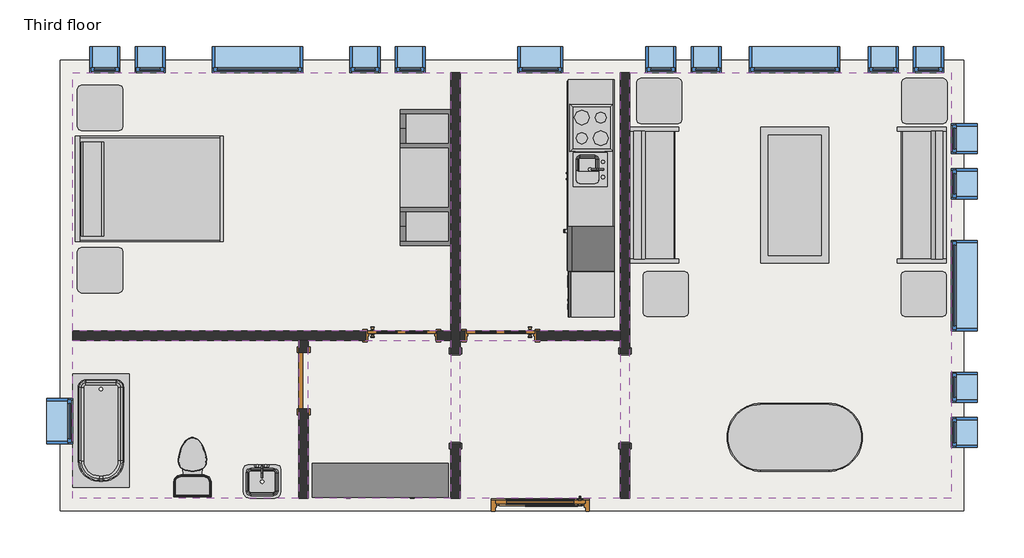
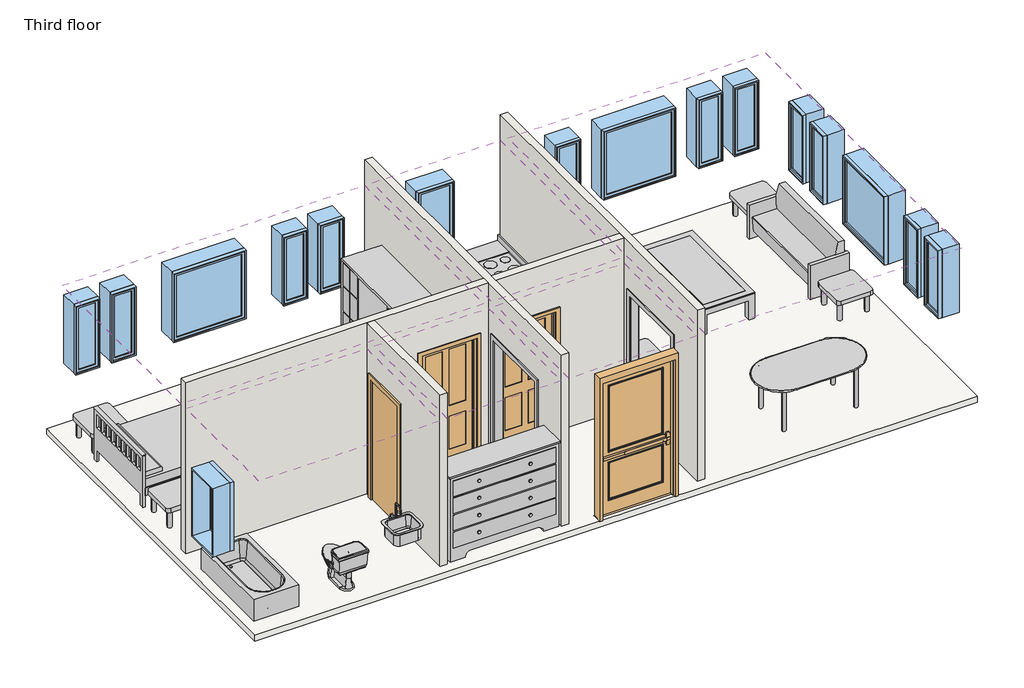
# One storey, incomplete: 17 windows, 14 furniture elements, 6 coverings, 6 proxies, 4 doors, 4 flow terminals, 4 walls, 1 slab.
"""IFC4 building model written with IfcOpenShell, lengths in millimetres."""

from ifc_helpers import new_model, si_unit, frame, origin, place, context, project, spatial, polyline, outline, extrude, faceted_brep, transform, mapped, element, save
from components import proxy_a6faaae8, proxy_45b28599, proxy_2d72b8be, proxy_f44482cc, proxy_d58c73d0, proxy_c523a7b7, door_734823c0, door_3a280f7b, door_48307b55, door_4d6c7550, flow_terminal_871c2e40, flow_terminal_62a433f7, toilet_domestic_3d_toilet_domestic_3d_f7549cf7, toilet_domestic_3d_toilet_domestic_3d_183bbd19, tub_rectangular_3d_tub_rectangular_3d_c56944d8, furniture_096e7f55, furniture_b11095bc, furniture_7c473f12, furniture_cf0b6580, furniture_a4ffab56, furniture_4aa42607, furniture_cd93a443, furniture_2c34a4f9, furniture_3a588284, furniture_1befe2a2, window_da97879f, window_d61ef850, window_60baf983, window_6eb97611

model = new_model("IFC4")

# Units and contexts
model_context = context("Model", 3, world=origin())
ifc_project = project(units=[si_unit("LENGTHUNIT", "METRE", prefix="MILLI")], contexts=[model_context])

# Site, building, storey
site = spatial("IfcSite", under=ifc_project)
building = spatial("IfcBuilding", under=site)
storey = spatial("IfcBuildingStorey", under=building, Name="Third floor", Elevation=6096.0)

# Proxies
placement = place(None, origin())
proxy_shape = proxy_a6faaae8(model_context)
element("IfcBuildingElementProxy", 1, Name="Cook Top-4 Unit2 : 22\" x 20\"", ObjectType="Cook Top-4 Unit2 : 22\" x 20\"", at=placement, inside=storey, context=model_context, shape_type="MappedRepresentation", body=[
    mapped(proxy_shape, transform((-9031.7273953, 6866.0370415, 6097.7), x_axis=(0.0, 1.0, 0.0), y_axis=(-1.0, 0.0, 0.0), z_axis=(0.0, 0.0, 1.0))),
])
proxy_2_shape = proxy_45b28599(model_context)
element("IfcBuildingElementProxy", 2, Name="Dishwasher : 24\" x 24\" x 34\"", ObjectType="Dishwasher : 24\" x 24\" x 34\"", at=placement, inside=storey, context=model_context, shape_type="MappedRepresentation", body=[
    mapped(proxy_2_shape, transform((-9291.8269601, 5000.45451, 6096.0), x_axis=(0.0, -1.0, 0.0), y_axis=(1.0, 0.0, 0.0), z_axis=(0.0, 0.0, 1.0))),
])
proxy_3_shape = proxy_2d72b8be(model_context)
element("IfcBuildingElementProxy", 3, Name="Kitchenette - Medium : 8'6\"", ObjectType="Kitchenette - Medium : 8'6\"", at=placement, inside=storey, context=model_context, shape_type="MappedRepresentation", body=[
    mapped(proxy_3_shape, transform((-8720.5773953, 6237.0747464, 6096.0), x_axis=(0.0, -1.0, 0.0), y_axis=(1.0, 0.0, 0.0), z_axis=(0.0, 0.0, 1.0))),
])
proxy_4_shape = proxy_f44482cc(model_context)
element("IfcBuildingElementProxy", 4, Name="Passage Opening-Cased : 48\" x 84\"", ObjectType="Passage Opening-Cased : 48\" x 84\"", at=placement, inside=storey, context=model_context, shape_type="MappedRepresentation", body=[
    mapped(proxy_4_shape, transform((-8577.1844712, 3224.0452741, 6096.0), x_axis=(0.0, 1.0, 0.0), y_axis=(-1.0, 0.0, 0.0), z_axis=(0.0, 0.0, 1.0))),
])
proxy_5_shape = proxy_d58c73d0(model_context)
element("IfcBuildingElementProxy", 5, Name="Passage Opening-Cased : 48\" x 84\"", ObjectType="Passage Opening-Cased : 48\" x 84\"", at=placement, inside=storey, context=model_context, shape_type="MappedRepresentation", body=[
    mapped(proxy_5_shape, transform((-10863.1844712, 3224.0452741, 6096.0), x_axis=(0.0, 1.0, 0.0), y_axis=(-1.0, 0.0, 0.0), z_axis=(0.0, 0.0, 1.0))),
])
proxy_6_shape = proxy_c523a7b7(model_context)
element("IfcBuildingElementProxy", 6, Name="Refrigerator : 24\" x 25\" LH", ObjectType="Refrigerator : 24\" x 25\" LH", at=placement, inside=storey, context=model_context, shape_type="MappedRepresentation", body=[
    mapped(proxy_6_shape, transform((-9020.2263668, 5234.0870415, 6096.0), x_axis=(0.0, -1.0, 0.0), y_axis=(1.0, 0.0, 0.0), z_axis=(0.0, 0.0, 1.0))),
])

# Coverings
element("IfcCovering", 7, ObjectType="GWB on Mtl. Stud", at=placement, inside=storey, context=model_context, shape_type="SweptSolid", body=[
    extrude(outline(polyline([(-16020.9719712, 7611.6441174), (-10926.6844712, 7611.6441174), (-10926.6844712, 4128.6691174), (-16020.9719712, 4128.6691174), (-16020.9719712, 7611.6441174)])), frame((0.0, 0.0, 8686.8), z_axis=(0.0, 0.0, 1.0), x_axis=(1.0, 0.0, 0.0)), (0.0, 0.0, 1.0), 107.95),
])
element("IfcCovering", 8, ObjectType="GWB on Mtl. Stud", at=placement, inside=storey, context=model_context, shape_type="SweptSolid", body=[
    extrude(outline(polyline([(-10799.6844712, 4128.6691174), (-10799.6844712, 7611.6441174), (-8640.6844712, 7611.6441174), (-8640.6844712, 4128.6691174), (-10799.6844712, 4128.6691174)])), frame((0.0, 0.0, 8686.8), z_axis=(0.0, 0.0, 1.0), x_axis=(1.0, 0.0, 0.0)), (0.0, 0.0, 1.0), 107.95),
])
element("IfcCovering", 9, ObjectType="GWB on Mtl. Stud", at=placement, inside=storey, context=model_context, shape_type="SweptSolid", body=[
    extrude(outline(polyline([(-8513.6844712, 1868.0691174), (-8513.6844712, 7611.6441174), (-4181.3969712, 7611.6441174), (-4181.3969712, 1868.0691174), (-8513.6844712, 1868.0691174)])), frame((0.0, 0.0, 8686.8), z_axis=(0.0, 0.0, 1.0), x_axis=(1.0, 0.0, 0.0)), (0.0, 0.0, 1.0), 107.95),
])
element("IfcCovering", 10, ObjectType="GWB on Mtl. Stud", at=placement, inside=storey, context=model_context, shape_type="SweptSolid", body=[
    extrude(outline(polyline([(-8640.6844712, 1868.0691174), (-10799.6844712, 1868.0691174), (-10799.6844712, 4001.6691174), (-8640.6844712, 4001.6691174), (-8640.6844712, 1868.0691174)])), frame((0.0, 0.0, 8686.8), z_axis=(0.0, 0.0, 1.0), x_axis=(1.0, 0.0, 0.0)), (0.0, 0.0, 1.0), 107.95),
])
element("IfcCovering", 11, ObjectType="GWB on Mtl. Stud", at=placement, inside=storey, context=model_context, shape_type="SweptSolid", body=[
    extrude(outline(polyline([(-10926.6844712, 1868.0691174), (-12845.9719712, 1868.0691174), (-12845.9719712, 4001.6691174), (-10926.6844712, 4001.6691174), (-10926.6844712, 1868.0691174)])), frame((0.0, 0.0, 8686.8), z_axis=(0.0, 0.0, 1.0), x_axis=(1.0, 0.0, 0.0)), (0.0, 0.0, 1.0), 107.95),
])
element("IfcCovering", 12, ObjectType="GWB on Mtl. Stud", at=placement, inside=storey, context=model_context, shape_type="SweptSolid", body=[
    extrude(outline(polyline([(-12972.9719712, 4001.6691174), (-12972.9719712, 1868.0691174), (-16020.9719712, 1868.0691174), (-16020.9719712, 4001.6691174), (-12972.9719712, 4001.6691174)])), frame((0.0, 0.0, 8686.8), z_axis=(0.0, 0.0, 1.0), x_axis=(1.0, 0.0, 0.0)), (0.0, 0.0, 1.0), 107.95),
])

# Doors
door_shape = door_734823c0(model_context)
element("IfcDoor", 13, ObjectType="Door-Exterior-Single-Two_Lite : 48\" x 96\"", at=placement, inside=storey, context=model_context, shape_type="MappedRepresentation", body=[
    mapped(door_shape, transform((-9720.1844712, 1685.5066174, 6096.0), x_axis=(-1.0, 0.0, 0.0), y_axis=(0.0, -1.0, 0.0), z_axis=(0.0, 0.0, 1.0))),
])
door_2_shape = door_3a280f7b(model_context)
element("IfcDoor", 14, ObjectType="Door-Interior-Single-4_Panel-Wood : 36\" x 84\"", at=placement, inside=storey, context=model_context, shape_type="MappedRepresentation", body=[
    mapped(door_2_shape, transform((-10253.5844712, 4068.3441174, 6096.0), x_axis=(-1.0, 0.0, 0.0), y_axis=(0.0, -1.0, 0.0), z_axis=(0.0, 0.0, 1.0))),
])
door_3_shape = door_48307b55(model_context)
element("IfcDoor", 15, ObjectType="Door-Interior-Single-4_Panel-Wood : 36\" x 84\"", at=placement, inside=storey, context=model_context, shape_type="MappedRepresentation", body=[
    mapped(door_3_shape, transform((-11588.6719712, 4068.3441174, 6096.0), x_axis=(1.0, 0.0, 0.0), y_axis=(0.0, 1.0, 0.0), z_axis=(0.0, 0.0, 1.0))),
])
door_4_shape = door_4d6c7550(model_context)
element("IfcDoor", 16, ObjectType="Single-Flush : 30\" x 84\"", at=placement, inside=storey, context=model_context, shape_type="MappedRepresentation", body=[
    mapped(door_4_shape, transform((-12909.4719712, 3455.5691174, 6096.0), x_axis=(0.0, 1.0, 0.0), y_axis=(-1.0, 0.0, 0.0), z_axis=(0.0, 0.0, 1.0))),
])

# Flow terminals
flow_terminal_shape = flow_terminal_871c2e40(model_context)
element("IfcFlowTerminal", 17, ObjectType="Sink Kitchen-Island : 18\" x 18\"", at=placement, inside=storey, context=model_context, shape_type="MappedRepresentation", body=[
    mapped(flow_terminal_shape, transform((-9048.7582992, 6321.1277059, 6083.3), x_axis=(0.0, -1.0, 0.0), y_axis=(1.0, 0.0, 0.0), z_axis=(0.0, 0.0, 1.0))),
])
flow_terminal_2_shape = flow_terminal_62a433f7(model_context)
element("IfcFlowTerminal", 18, ObjectType="Sink Vanity-Square : 20\" x 18\"", at=placement, inside=storey, context=model_context, shape_type="MappedRepresentation", body=[
    mapped(flow_terminal_2_shape, transform((-13483.9612118, 2145.1237163, 6096.0), x_axis=(1.0, 0.0, 0.0), y_axis=(0.0, 1.0, 0.0), z_axis=(0.0, 0.0, 1.0))),
])
toilet_domestic_3d_toilet_domestic_3d_shape = toilet_domestic_3d_toilet_domestic_3d_f7549cf7(model_context)
toilet_domestic_3d_toilet_domestic_3d_2_shape = toilet_domestic_3d_toilet_domestic_3d_183bbd19(model_context)
element("IfcFlowTerminal", 19, ObjectType="Toilet-Domestic-3D : Toilet-Domestic-3D", at=placement, inside=storey, context=model_context, shape_type="MappedRepresentation", body=[
    mapped(toilet_domestic_3d_toilet_domestic_3d_shape, transform((-14408.0719712, 2388.7691174, 6096.0), x_axis=(-1.0, 0.0, 0.0), y_axis=(0.0, -1.0, 0.0), z_axis=(0.0, 0.0, 1.0))),
    mapped(toilet_domestic_3d_toilet_domestic_3d_2_shape, transform((-14408.0719712, 2388.7691174, 6096.0), x_axis=(-1.0, 0.0, 0.0), y_axis=(0.0, -1.0, 0.0), z_axis=(0.0, 0.0, 1.0))),
])
tub_rectangular_3d_tub_rectangular_3d_shape = tub_rectangular_3d_tub_rectangular_3d_c56944d8(model_context)
element("IfcFlowTerminal", 20, ObjectType="Tub-Rectangular-3D : Tub-Rectangular-3D", at=placement, inside=storey, context=model_context, shape_type="MappedRepresentation", body=[
    mapped(tub_rectangular_3d_tub_rectangular_3d_shape, transform((-16197.1844712, 2435.4536487, 6096.0), x_axis=(0.0, -1.0, 0.0), y_axis=(1.0, 0.0, 0.0), z_axis=(0.0, 0.0, 1.0))),
])

# Furniture
furniture_shape = furniture_096e7f55(model_context)
element("IfcFurniture", 21, ObjectType="Bed-Shaker : Double 56\" x 78\"", at=placement, inside=storey, context=model_context, shape_type="MappedRepresentation", body=[
    mapped(furniture_shape, transform((-15975.8112951, 6061.1004868, 6096.0), x_axis=(0.0, 1.0, 0.0), y_axis=(-1.0, 0.0, 0.0), z_axis=(0.0, 0.0, 1.0))),
])
furniture_2_shape = furniture_b11095bc(model_context)
element("IfcFurniture", 22, ObjectType="Counter Top w Sink Hole : 24\" Depth", at=placement, inside=storey, context=model_context, shape_type="MappedRepresentation", body=[
    mapped(furniture_2_shape, transform((-8720.5773953, 6313.2747464, 6083.3), x_axis=(0.0, -1.0, 0.0), y_axis=(1.0, 0.0, 0.0), z_axis=(0.0, 0.0, 1.0))),
])
furniture_3_shape = furniture_7c473f12(model_context)
element("IfcFurniture", 23, ObjectType="Dresser : 72\" x 60\" x 18\"", at=placement, inside=storey, context=model_context, shape_type="MappedRepresentation", body=[
    mapped(furniture_3_shape, transform((-11608.4037114, 2478.8820715, 6096.0), x_axis=(1.0, 0.0, 0.0), y_axis=(0.0, 1.0, 0.0), z_axis=(0.0, 0.0, 1.0))),
])
furniture_4_shape = furniture_cf0b6580(model_context)
element("IfcFurniture", 24, ObjectType="Entertainment Center : 72\" x 72\" x 24\"", at=placement, inside=storey, context=model_context, shape_type="MappedRepresentation", body=[
    mapped(furniture_4_shape, transform((-10825.0844712, 6196.8069525, 6096.0), x_axis=(0.0, -1.0, 0.0), y_axis=(1.0, 0.0, 0.0), z_axis=(0.0, 0.0, 1.0))),
])
furniture_5_shape = furniture_a4ffab56(model_context)
element("IfcFurniture", 25, ObjectType="Sofa : 72\"", at=placement, inside=storey, context=model_context, shape_type="MappedRepresentation", body=[
    mapped(furniture_5_shape, transform((-8037.3303728, 5888.6861256, 6096.0), x_axis=(0.0, 1.0, 0.0), y_axis=(-1.0, 0.0, 0.0), z_axis=(0.0, 0.0, 1.0))),
])
furniture_6_shape = furniture_4aa42607(model_context)
element("IfcFurniture", 26, ObjectType="Sofa : 72\"", at=placement, inside=storey, context=model_context, shape_type="MappedRepresentation", body=[
    mapped(furniture_6_shape, transform((-4722.8385696, 5888.6861256, 6096.0), x_axis=(0.0, 1.0, 0.0), y_axis=(-1.0, 0.0, 0.0), z_axis=(0.0, 0.0, 1.0))),
])
furniture_7_shape = furniture_cd93a443(model_context)
element("IfcFurniture", 27, ObjectType="Table-Coffee : 36\" x 72\" x 18\"", at=placement, inside=storey, context=model_context, shape_type="MappedRepresentation", body=[
    mapped(furniture_7_shape, transform((-6386.395549, 5977.3223841, 6096.0), x_axis=(0.0, -1.0, 0.0), y_axis=(1.0, 0.0, 0.0), z_axis=(0.0, 0.0, 1.0))),
])
furniture_8_shape = furniture_2c34a4f9(model_context)
element("IfcFurniture", 28, ObjectType="Table-Dining Oval : 36\" x 72\"", at=placement, inside=storey, context=model_context, shape_type="MappedRepresentation", body=[
    mapped(furniture_8_shape, transform((-5889.3647991, 3051.6674781, 6096.0), x_axis=(1.0, 0.0, 0.0), y_axis=(0.0, 1.0, 0.0), z_axis=(0.0, 0.0, 1.0))),
])
furniture_9_shape = furniture_3a588284(model_context)
element("IfcFurniture", 29, ObjectType="Table-End : 24\" x 24\"", at=placement, inside=storey, context=model_context, shape_type="MappedRepresentation", body=[
    mapped(furniture_9_shape, transform((-8424.0054177, 7076.6566174, 6096.0), x_axis=(1.0, 0.0, 0.0), y_axis=(0.0, 1.0, 0.0), z_axis=(0.0, 0.0, 1.0))),
])
element("IfcFurniture", 30, ObjectType="Table-End : 24\" x 24\"", at=placement, inside=storey, context=model_context, shape_type="MappedRepresentation", body=[
    mapped(furniture_9_shape, transform((-8338.5433691, 4473.0178252, 6096.0), x_axis=(1.0, 0.0, 0.0), y_axis=(0.0, 1.0, 0.0), z_axis=(0.0, 0.0, 1.0))),
])
element("IfcFurniture", 31, ObjectType="Table-End : 24\" x 24\"", at=placement, inside=storey, context=model_context, shape_type="MappedRepresentation", body=[
    mapped(furniture_9_shape, transform((-15961.2056015, 4795.4191174, 6096.0), x_axis=(1.0, 0.0, 0.0), y_axis=(0.0, 1.0, 0.0), z_axis=(0.0, 0.0, 1.0))),
])
furniture_10_shape = furniture_1befe2a2(model_context)
element("IfcFurniture", 32, ObjectType="Table-End : 24\" x 24\"", at=placement, inside=storey, context=model_context, shape_type="MappedRepresentation", body=[
    mapped(furniture_10_shape, transform((-4234.5635246, 7076.6566174, 6096.0), x_axis=(-1.0, 0.0, 0.0), y_axis=(0.0, -1.0, 0.0), z_axis=(0.0, 0.0, 1.0))),
])
element("IfcFurniture", 33, ObjectType="Table-End : 24\" x 24\"", at=placement, inside=storey, context=model_context, shape_type="MappedRepresentation", body=[
    mapped(furniture_10_shape, transform((-4243.8255733, 4473.0178252, 6096.0), x_axis=(-1.0, 0.0, 0.0), y_axis=(0.0, -1.0, 0.0), z_axis=(0.0, 0.0, 1.0))),
])
element("IfcFurniture", 34, ObjectType="Table-End : 24\" x 24\"", at=placement, inside=storey, context=model_context, shape_type="MappedRepresentation", body=[
    mapped(furniture_10_shape, transform((-15961.2056015, 7288.6818561, 6096.0), x_axis=(1.0, 0.0, 0.0), y_axis=(0.0, 1.0, 0.0), z_axis=(0.0, 0.0, 1.0))),
])

# Slab
element("IfcSlab", 35, ObjectType="LW Concrete on Metal Deck", at=placement, inside=storey, context=model_context, shape_type="SweptSolid", body=[
    extrude(outline(polyline([(-4016.2969712, 7776.7441174), (-4016.2969712, 1702.9691174), (-16186.0719712, 1702.9691174), (-16186.0719712, 7776.7441174), (-4016.2969712, 7776.7441174)])), frame((0.0, 0.0, 5991.225), z_axis=(0.0, 0.0, 1.0), x_axis=(1.0, 0.0, 0.0)), (0.0, 0.0, 1.0), 104.775),
])

# Walls
element("IfcWall", 36, ObjectType="Interior - 5\" Partition (2-hr)", at=placement, inside=storey, context=model_context, shape_type="Brep", body=[
    faceted_brep([(-8640.6844712, 7611.6441174, 6096.0), (-8640.6844712, 4128.6691174, 6096.0), (-8640.6844712, 4001.6691174, 6096.0), (-8640.6844712, 3825.4566174, 6096.0), (-8640.6844712, 3825.4566174, 8229.6), (-8640.6844712, 2606.2566174, 8229.6), (-8640.6844712, 2606.2566174, 6096.0), (-8640.6844712, 1868.0691174, 6096.0), (-8640.6844712, 1868.0691174, 9144.0), (-8640.6844712, 4001.6691174, 9144.0), (-8640.6844712, 4128.6691174, 9144.0), (-8640.6844712, 7611.6441174, 9144.0), (-8513.6844712, 3825.4566174, 8229.6), (-8513.6844712, 3825.4566174, 6096.0), (-8513.6844712, 7611.6441174, 6096.0), (-8513.6844712, 7611.6441174, 9144.0), (-8513.6844712, 1868.0691174, 9144.0), (-8513.6844712, 1868.0691174, 6096.0), (-8513.6844712, 2606.2566174, 6096.0), (-8513.6844712, 2606.2566174, 8229.6)], [[[0, 1, 2, 3, 4, 5, 6, 7, 8, 9, 10, 11]], [[12, 13, 14, 15, 16, 17, 18, 19]], [[18, 17, 7, 6]], [[14, 13, 3, 2, 1, 0]], [[11, 10, 9, 8, 16, 15]], [[6, 5, 19, 18]], [[4, 3, 13, 12]], [[5, 4, 12, 19]], [[0, 11, 15, 14]], [[8, 7, 17, 16]]]),
])
element("IfcWall", 37, ObjectType="Interior - 5\" Partition (2-hr)", at=placement, inside=storey, context=model_context, shape_type="Brep", body=[
    faceted_brep([(-10926.6844712, 7611.6441174, 6096.0), (-10926.6844712, 4128.6691174, 6096.0), (-10926.6844712, 4001.6691174, 6096.0), (-10926.6844712, 3825.4566174, 6096.0), (-10926.6844712, 3825.4566174, 8229.6), (-10926.6844712, 2606.2566174, 8229.6), (-10926.6844712, 2606.2566174, 6096.0), (-10926.6844712, 1868.0691174, 6096.0), (-10926.6844712, 1868.0691174, 9144.0), (-10926.6844712, 4001.6691174, 9144.0), (-10926.6844712, 4128.6691174, 9144.0), (-10926.6844712, 7611.6441174, 9144.0), (-10799.6844712, 3825.4566174, 8229.6), (-10799.6844712, 3825.4566174, 6096.0), (-10799.6844712, 4001.6691174, 6096.0), (-10799.6844712, 4128.6691174, 6096.0), (-10799.6844712, 7611.6441174, 6096.0), (-10799.6844712, 7611.6441174, 9144.0), (-10799.6844712, 4128.6691174, 9144.0), (-10799.6844712, 4001.6691174, 9144.0), (-10799.6844712, 1868.0691174, 9144.0), (-10799.6844712, 1868.0691174, 6096.0), (-10799.6844712, 2606.2566174, 6096.0), (-10799.6844712, 2606.2566174, 8229.6)], [[[0, 1, 2, 3, 4, 5, 6, 7, 8, 9, 10, 11]], [[12, 13, 14, 15, 16, 17, 18, 19, 20, 21, 22, 23]], [[22, 21, 7, 6]], [[16, 15, 14, 13, 3, 2, 1, 0]], [[11, 10, 9, 8, 20, 19, 18, 17]], [[6, 5, 23, 22]], [[4, 3, 13, 12]], [[5, 4, 12, 23]], [[0, 11, 17, 16]], [[8, 7, 21, 20]]]),
])
element("IfcWall", 38, ObjectType="Interior - 5\" Partition (2-hr)", at=placement, inside=storey, context=model_context, shape_type="Brep", body=[
    faceted_brep([(-8640.6844712, 4001.6691174, 6096.0), (-8640.6844712, 4001.6691174, 9144.0), (-10799.6844712, 4001.6691174, 9144.0), (-10799.6844712, 4001.6691174, 6096.0), (-10736.1844712, 4001.6691174, 6096.0), (-10736.1844712, 4001.6691174, 8255.0), (-9770.9844712, 4001.6691174, 8255.0), (-9770.9844712, 4001.6691174, 6096.0), (-8640.6844712, 4128.6691174, 9144.0), (-8640.6844712, 4128.6691174, 6096.0), (-9770.9844712, 4128.6691174, 6096.0), (-9770.9844712, 4128.6691174, 8255.0), (-10736.1844712, 4128.6691174, 8255.0), (-10736.1844712, 4128.6691174, 6096.0), (-10799.6844712, 4128.6691174, 6096.0), (-10799.6844712, 4128.6691174, 9144.0)], [[[0, 1, 2, 3, 4, 5, 6, 7]], [[8, 9, 10, 11, 12, 13, 14, 15]], [[9, 0, 7, 10]], [[13, 4, 3, 14]], [[1, 8, 15, 2]], [[1, 0, 9, 8]], [[3, 2, 15, 14]], [[5, 4, 13, 12]], [[6, 5, 12, 11]], [[7, 6, 11, 10]]]),
    faceted_brep([(-16020.9719712, 4001.6691174, 6096.0), (-12972.9719712, 4001.6691174, 6096.0), (-12845.9719712, 4001.6691174, 6096.0), (-12071.2719712, 4001.6691174, 6096.0), (-12071.2719712, 4001.6691174, 8255.0), (-11106.0719712, 4001.6691174, 8255.0), (-11106.0719712, 4001.6691174, 6096.0), (-10926.6844712, 4001.6691174, 6096.0), (-10926.6844712, 4001.6691174, 9144.0), (-12845.9719712, 4001.6691174, 9144.0), (-12972.9719712, 4001.6691174, 9144.0), (-16020.9719712, 4001.6691174, 9144.0), (-12071.2719712, 4128.6691174, 6096.0), (-16020.9719712, 4128.6691174, 6096.0), (-16020.9719712, 4128.6691174, 9144.0), (-10926.6844712, 4128.6691174, 9144.0), (-10926.6844712, 4128.6691174, 6096.0), (-11106.0719712, 4128.6691174, 6096.0), (-11106.0719712, 4128.6691174, 8255.0), (-12071.2719712, 4128.6691174, 8255.0)], [[[0, 1, 2, 3, 4, 5, 6, 7, 8, 9, 10, 11]], [[12, 13, 14, 15, 16, 17, 18, 19]], [[6, 17, 16, 7]], [[3, 2, 1, 0, 13, 12]], [[14, 11, 10, 9, 8, 15]], [[8, 7, 16, 15]], [[5, 18, 17, 6]], [[18, 5, 4, 19]], [[19, 4, 3, 12]], [[0, 11, 14, 13]]]),
])
element("IfcWall", 39, ObjectType="Interior - 5\" Partition (2-hr)", at=placement, inside=storey, context=model_context, shape_type="SweptSolid", body=[
    extrude(outline(polyline([(4001.6691174, 6096.0), (3836.5691174, 6096.0), (3836.5691174, 8229.6), (3074.5691174, 8229.6), (3074.5691174, 6096.0), (1868.0691174, 6096.0), (1868.0691174, 9144.0), (4001.6691174, 9144.0), (4001.6691174, 6096.0)])), frame((-12972.9719712, 0.0, 0.0), z_axis=(1.0, 0.0, 0.0), x_axis=(0.0, 1.0, 0.0)), (0.0, 0.0, 1.0), 127.0),
])

# Windows
window_shape = window_da97879f(model_context)
element("IfcWindow", 40, ObjectType="Fixed : 16\" x 48\"", at=placement, inside=storey, context=model_context, shape_type="MappedRepresentation", body=[
    mapped(window_shape, transform((-15625.6844712, 7787.8566174, 6096.0), x_axis=(-1.0, 0.0, 0.0), y_axis=(0.0, -1.0, 0.0), z_axis=(0.0, 0.0, 1.0))),
])
element("IfcWindow", 41, ObjectType="Fixed : 16\" x 48\"", at=placement, inside=storey, context=model_context, shape_type="MappedRepresentation", body=[
    mapped(window_shape, transform((-15016.0844712, 7787.8566174, 6096.0), x_axis=(-1.0, 0.0, 0.0), y_axis=(0.0, -1.0, 0.0), z_axis=(0.0, 0.0, 1.0))),
])
element("IfcWindow", 42, ObjectType="Fixed : 16\" x 48\"", at=placement, inside=storey, context=model_context, shape_type="MappedRepresentation", body=[
    mapped(window_shape, transform((-8132.6844712, 7787.8566174, 6096.0), x_axis=(-1.0, 0.0, 0.0), y_axis=(0.0, -1.0, 0.0), z_axis=(0.0, 0.0, 1.0))),
])
element("IfcWindow", 43, ObjectType="Fixed : 16\" x 48\"", at=placement, inside=storey, context=model_context, shape_type="MappedRepresentation", body=[
    mapped(window_shape, transform((-7523.0844712, 7787.8566174, 6096.0), x_axis=(-1.0, 0.0, 0.0), y_axis=(0.0, -1.0, 0.0), z_axis=(0.0, 0.0, 1.0))),
])
element("IfcWindow", 44, ObjectType="Fixed : 16\" x 48\"", at=placement, inside=storey, context=model_context, shape_type="MappedRepresentation", body=[
    mapped(window_shape, transform((-4005.1844712, 6759.1566174, 6096.0), x_axis=(0.0, 1.0, 0.0), y_axis=(-1.0, 0.0, 0.0), z_axis=(0.0, 0.0, 1.0))),
])
element("IfcWindow", 45, ObjectType="Fixed : 16\" x 48\"", at=placement, inside=storey, context=model_context, shape_type="MappedRepresentation", body=[
    mapped(window_shape, transform((-4005.1844712, 6149.5566174, 6096.0), x_axis=(0.0, 1.0, 0.0), y_axis=(-1.0, 0.0, 0.0), z_axis=(0.0, 0.0, 1.0))),
])
window_2_shape = window_d61ef850(model_context)
element("IfcWindow", 46, ObjectType="Fixed : 16\" x 48\"", at=placement, inside=storey, context=model_context, shape_type="MappedRepresentation", body=[
    mapped(window_2_shape, transform((-11434.6844712, 7787.8566174, 6096.0), x_axis=(1.0, 0.0, 0.0), y_axis=(0.0, 1.0, 0.0), z_axis=(0.0, 0.0, 1.0))),
])
element("IfcWindow", 47, ObjectType="Fixed : 16\" x 48\"", at=placement, inside=storey, context=model_context, shape_type="MappedRepresentation", body=[
    mapped(window_2_shape, transform((-12044.2844712, 7787.8566174, 6096.0), x_axis=(1.0, 0.0, 0.0), y_axis=(0.0, 1.0, 0.0), z_axis=(0.0, 0.0, 1.0))),
])
element("IfcWindow", 48, ObjectType="Fixed : 16\" x 48\"", at=placement, inside=storey, context=model_context, shape_type="MappedRepresentation", body=[
    mapped(window_2_shape, transform((-4449.6844712, 7787.8566174, 6096.0), x_axis=(1.0, 0.0, 0.0), y_axis=(0.0, 1.0, 0.0), z_axis=(0.0, 0.0, 1.0))),
])
element("IfcWindow", 49, ObjectType="Fixed : 16\" x 48\"", at=placement, inside=storey, context=model_context, shape_type="MappedRepresentation", body=[
    mapped(window_2_shape, transform((-5059.2844712, 7787.8566174, 6096.0), x_axis=(1.0, 0.0, 0.0), y_axis=(0.0, 1.0, 0.0), z_axis=(0.0, 0.0, 1.0))),
])
element("IfcWindow", 50, ObjectType="Fixed : 16\" x 48\"", at=placement, inside=storey, context=model_context, shape_type="MappedRepresentation", body=[
    mapped(window_2_shape, transform((-4005.1844712, 2720.5566174, 6096.0), x_axis=(0.0, -1.0, 0.0), y_axis=(1.0, 0.0, 0.0), z_axis=(0.0, 0.0, 1.0))),
])
element("IfcWindow", 51, ObjectType="Fixed : 16\" x 48\"", at=placement, inside=storey, context=model_context, shape_type="MappedRepresentation", body=[
    mapped(window_2_shape, transform((-4005.1844712, 3330.1566174, 6096.0), x_axis=(0.0, -1.0, 0.0), y_axis=(1.0, 0.0, 0.0), z_axis=(0.0, 0.0, 1.0))),
])
window_3_shape = window_60baf983(model_context)
element("IfcWindow", 52, ObjectType="Fixed : 24\" x 48\"", at=placement, inside=storey, context=model_context, shape_type="MappedRepresentation", body=[
    mapped(window_3_shape, transform((-9758.2844712, 7787.8566174, 6096.0), x_axis=(-1.0, 0.0, 0.0), y_axis=(0.0, -1.0, 0.0), z_axis=(0.0, 0.0, 1.0))),
])
element("IfcWindow", 53, ObjectType="Fixed : 24\" x 48\"", at=placement, inside=storey, context=model_context, shape_type="MappedRepresentation", body=[
    mapped(window_3_shape, transform((-16197.1844712, 2872.9566174, 6096.0), x_axis=(0.0, -1.0, 0.0), y_axis=(1.0, 0.0, 0.0), z_axis=(0.0, 0.0, 1.0))),
])
window_4_shape = window_6eb97611(model_context)
element("IfcWindow", 54, ObjectType="Fixed : 48\" x 48\"", at=placement, inside=storey, context=model_context, shape_type="MappedRepresentation", body=[
    mapped(window_4_shape, transform((-13568.2844712, 7787.8566174, 6096.0), x_axis=(-1.0, 0.0, 0.0), y_axis=(0.0, -1.0, 0.0), z_axis=(0.0, 0.0, 1.0))),
])
element("IfcWindow", 55, ObjectType="Fixed : 48\" x 48\"", at=placement, inside=storey, context=model_context, shape_type="MappedRepresentation", body=[
    mapped(window_4_shape, transform((-6329.2844712, 7787.8566174, 6096.0), x_axis=(-1.0, 0.0, 0.0), y_axis=(0.0, -1.0, 0.0), z_axis=(0.0, 0.0, 1.0))),
])
element("IfcWindow", 56, ObjectType="Fixed : 48\" x 48\"", at=placement, inside=storey, context=model_context, shape_type="MappedRepresentation", body=[
    mapped(window_4_shape, transform((-4005.1844712, 4777.9566174, 6096.0), x_axis=(0.0, 1.0, 0.0), y_axis=(-1.0, 0.0, 0.0), z_axis=(0.0, 0.0, 1.0))),
])

save(model, "model.ifc")
